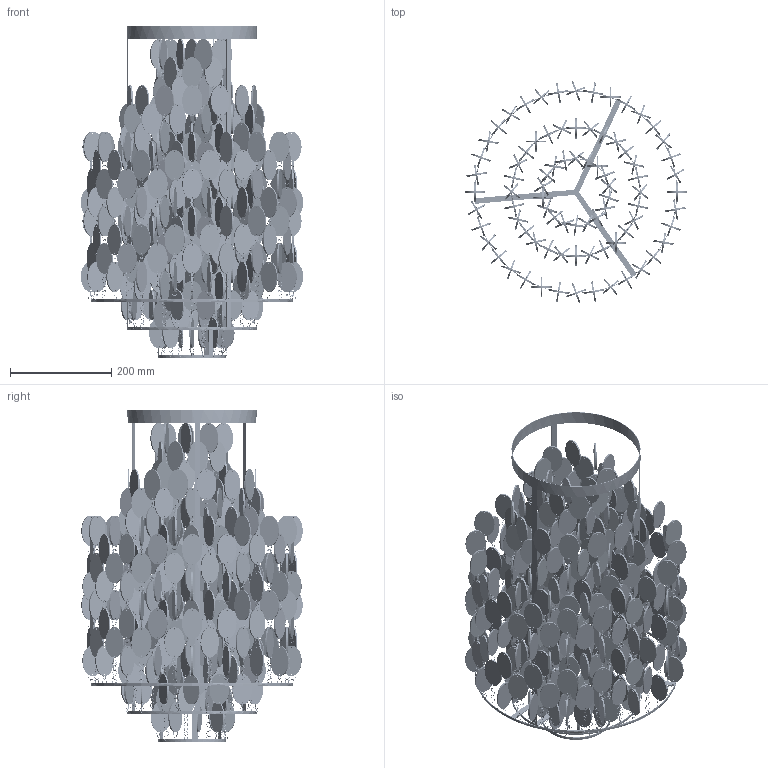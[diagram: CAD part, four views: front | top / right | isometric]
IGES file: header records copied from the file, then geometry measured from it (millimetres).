
Start section: SolidWorks IGES file using analytic representation for surfaces
Global section: file name: C:\Users\Chiina\Desktop\Chiina\Dokumendid\Frandsen Project\VerPan\FUN 1TA\FUN 1TA table lamp.IGS; native system: SolidWorks 2013; preprocessor: SolidWorks 2013; author: Chiina; date: 130126.172655; units: millimetre
Bounding box: 439.09 x 437.31 x 655.5 mm (x, y, z)
Surface area: 2145348.7 mm2 (no closed solid volume)
Topology: 0 solids, 0 shells, 8172 faces, 165249 edges, 165249 vertices
Faces by surface type: bspline 6174, revolution 1998
